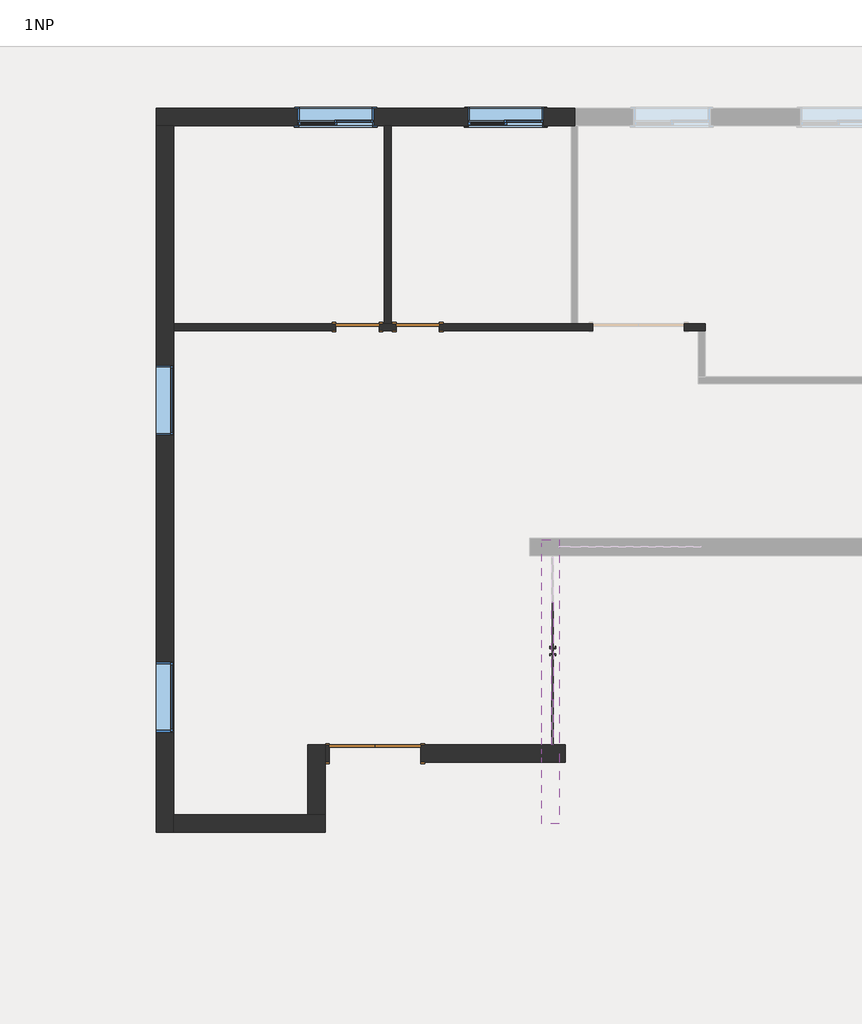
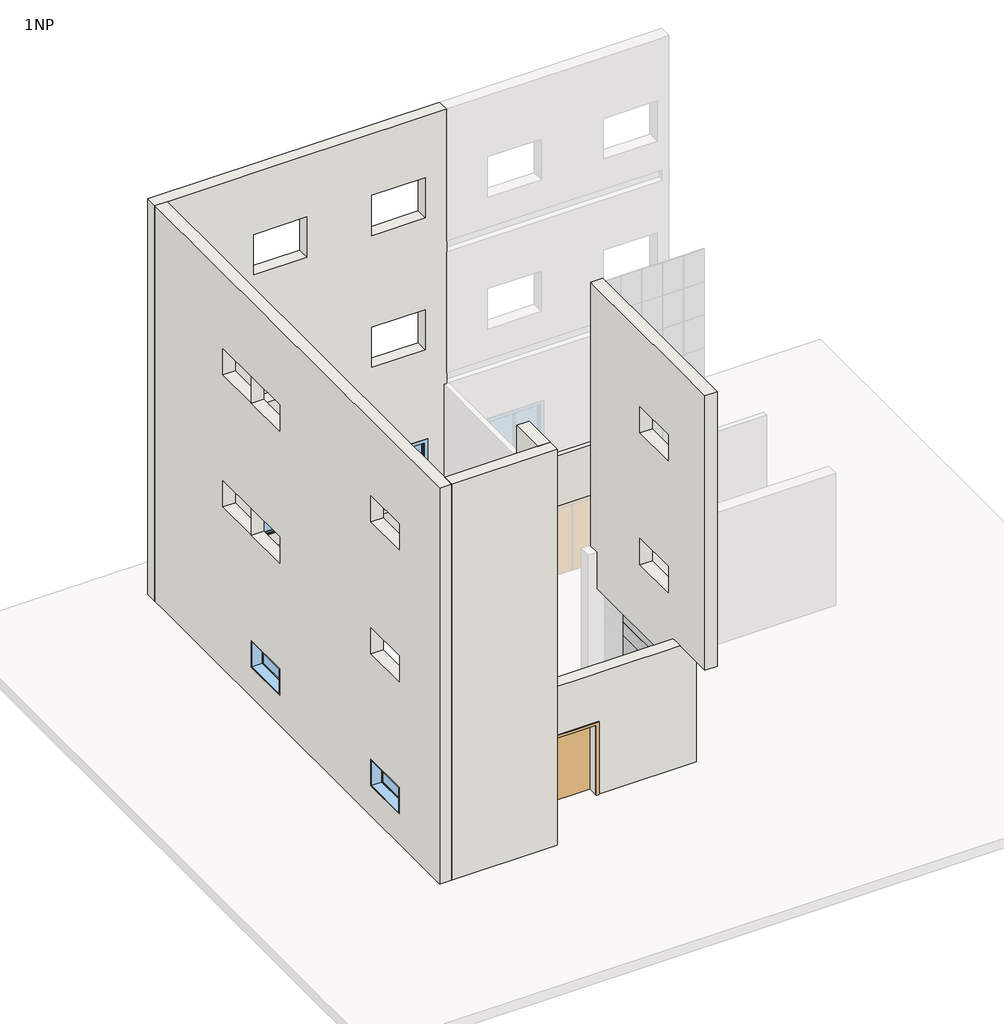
# One storey, part 1 of 2: 8 walls, 6 plates, 4 windows, 3 doors.
"""IFC4 building model written with IfcOpenShell, lengths in millimetres."""

import ifcopenshell
import ifcopenshell.guid

model = None  # the IFC model being written
_history = None  # IfcOwnerHistory: only IFC2X3 demands one
_inside = {}  # id of a spatial element -> (the spatial element, [elements in it])
_under = {}  # id of a project, library or spatial element -> (it, [spatial elements below it])
_declared = {}  # id of a project -> (the project, [libraries it declares])
_typed = {}  # id of a type object -> (the type object, [elements of that type])
_made_of = {}  # id of a material, layer set ... -> (it, [elements and type objects made of it])


def new_model(schema):
    """Start an empty IFC model of exactly this schema.

    Asked for "IFC4X3", IfcOpenShell would pick the latest addendum, in which some entities
    have other attributes; the version numbers below select the first issue.
    IFC2X3 requires an IfcOwnerHistory on every rooted entity: one is made here for all.
    """
    global model, _history
    if schema == "IFC4X3":
        model = ifcopenshell.file(schema_version=(4, 3, 0, 0))
    else:
        model = ifcopenshell.file(schema=schema)
    _inside.clear()
    _under.clear()
    _declared.clear()
    _typed.clear()
    _made_of.clear()
    _history = None
    if model.schema == "IFC2X3":
        org = make("IfcOrganization", Name="unknown")
        user = make(
            "IfcPersonAndOrganization",
            ThePerson=make("IfcPerson", FamilyName="unknown"),
            TheOrganization=org,
        )
        app = make(
            "IfcApplication",
            ApplicationDeveloper=org,
            Version="unknown",
            ApplicationFullName="unknown",
            ApplicationIdentifier="unknown",
        )
        _history = make(
            "IfcOwnerHistory",
            OwningUser=user,
            OwningApplication=app,
            ChangeAction="ADDED",
            CreationDate=0,
        )
    return model


def make(cls, **values):
    """One entity of the class cls with the attributes given. An attribute that is None is left unset."""
    return model.create_entity(
        cls, **{name: value for name, value in values.items() if value is not None}
    )


def rooted(cls, **values):
    """An entity with a GlobalId (a new one), such as an element, a storey or a relation."""
    return make(cls, GlobalId=ifcopenshell.guid.new(), OwnerHistory=_history, **values)


def si_unit(unit_type, name, prefix=None):
    """IfcSIUnit, for example si_unit("LENGTHUNIT", "METRE", prefix="MILLI")."""
    return make("IfcSIUnit", UnitType=unit_type, Prefix=prefix, Name=name)


def assignment(units):
    """IfcUnitAssignment: the units of a project."""
    return None if units is None else make("IfcUnitAssignment", Units=units)


def point(xyz):
    """IfcCartesianPoint."""
    return None if xyz is None else make("IfcCartesianPoint", Coordinates=xyz)


def direction(xyz):
    """IfcDirection."""
    return None if xyz is None else make("IfcDirection", DirectionRatios=xyz)


def frame(location, z_axis=None, x_axis=None):
    """IfcAxis2Placement3D, a coordinate frame: its origin and axes. An axis left out is left unset."""
    return make(
        "IfcAxis2Placement3D",
        Location=point(location),
        Axis=direction(z_axis),
        RefDirection=direction(x_axis),
    )


def origin():
    """The frame at (0, 0, 0) with its axes left unset."""
    return frame((0.0, 0.0, 0.0))


def origin_with_axes():
    """The frame at (0, 0, 0) with the z axis (0, 0, 1) and the x axis (1, 0, 0) written out."""
    return frame((0.0, 0.0, 0.0), z_axis=(0.0, 0.0, 1.0), x_axis=(1.0, 0.0, 0.0))


def place(relative_to, where):
    """IfcLocalPlacement: puts the frame where relative to a parent placement (None: the world)."""
    return make(
        "IfcLocalPlacement", PlacementRelTo=relative_to, RelativePlacement=where
    )


def context(
    kind, dimensions, precision=None, world=None, true_north=None, identifier=None
):
    """IfcGeometricRepresentationContext, for example the 3D "Model" context."""
    return make(
        "IfcGeometricRepresentationContext",
        ContextIdentifier=identifier,
        ContextType=kind,
        CoordinateSpaceDimension=dimensions,
        Precision=precision,
        WorldCoordinateSystem=world,
        TrueNorth=true_north,
    )


def project(units=None, contexts=None):
    """IfcProject with its units and contexts."""
    return rooted(
        "IfcProject",
        Name="project",
        RepresentationContexts=contexts,
        UnitsInContext=assignment(units),
    )


def spatial(cls, under=None, at=None, **own):
    """A site, building, storey or space (cls), placed at a placement, below another one or the project."""
    s = rooted(cls, ObjectPlacement=at, **own)
    if under is not None:
        _under.setdefault(under.id(), (under, []))[1].append(s)
    return s


def polyline(points):
    """IfcPolyline through the points."""
    return make("IfcPolyline", Points=[point(p) for p in points])


def outline(outer, holes=None, kind="AREA"):
    """IfcArbitraryClosedProfileDef: a profile drawn as a closed curve; with holes, ...WithVoids."""
    if holes is None:
        return make("IfcArbitraryClosedProfileDef", ProfileType=kind, OuterCurve=outer)
    return make(
        "IfcArbitraryProfileDefWithVoids",
        ProfileType=kind,
        OuterCurve=outer,
        InnerCurves=holes,
    )


def extrude(swept, where, along, depth):
    """IfcExtrudedAreaSolid: the profile swept, set in the frame where, extruded along a direction by depth."""
    return make(
        "IfcExtrudedAreaSolid",
        SweptArea=swept,
        Position=where,
        ExtrudedDirection=direction(along),
        Depth=depth,
    )


def faces_of(points, faces, orient=None, outer=None):
    """IfcFace entities. A face is a list of loops; a loop is a list of indices into points, from 0.

    orient and outer hold one flag for each loop. By default every Orientation is true, the
    first loop of a face is its IfcFaceOuterBound and the others are IfcFaceBound.
    """
    made = []
    for i, loops in enumerate(faces):
        bounds = []
        for j, loop in enumerate(loops):
            is_outer = j == 0 if outer is None else outer[i][j]
            bounds.append(
                make(
                    "IfcFaceOuterBound" if is_outer else "IfcFaceBound",
                    Bound=make("IfcPolyLoop", Polygon=[points[k] for k in loop]),
                    Orientation=True if orient is None else orient[i][j],
                )
            )
        made.append(make("IfcFace", Bounds=bounds))
    return made


def faceted_brep(points, faces, orient=None, outer=None, voids=None):
    """IfcFacetedBrep: a solid bounded by flat faces; with voids (closed shells), ...WithVoids."""
    shared = [point(p) for p in points]
    hull = make("IfcClosedShell", CfsFaces=faces_of(shared, faces, orient, outer))
    if voids is None:
        return make("IfcFacetedBrep", Outer=hull)
    return make(
        "IfcFacetedBrepWithVoids",
        Outer=hull,
        Voids=[
            make(cls, CfsFaces=faces_of(shared, fs, o, b)) for cls, fs, o, b in voids
        ],
    )


def shape(context_of_items, identifier, shape_type, items):
    """IfcShapeRepresentation: the items that make up one representation, for example the "Body"."""
    return make(
        "IfcShapeRepresentation",
        ContextOfItems=context_of_items,
        RepresentationIdentifier=identifier,
        RepresentationType=shape_type,
        Items=items,
    )


def source(mapping_origin, context_of_items, identifier, shape_type, items):
    """IfcRepresentationMap: a shape defined once, which mapped items show again and again."""
    return make(
        "IfcRepresentationMap",
        MappingOrigin=mapping_origin,
        MappedRepresentation=shape(context_of_items, identifier, shape_type, items),
    )


def transform(
    local_origin,
    x_axis=None,
    y_axis=None,
    z_axis=None,
    scale=None,
    scale2=None,
    scale3=None,
    uniform=True,
):
    """IfcCartesianTransformationOperator3D, or its non-uniform kind. x_axis, y_axis, z_axis: its Axis1, 2, 3."""
    if uniform:
        return make(
            "IfcCartesianTransformationOperator3D",
            Axis1=direction(x_axis),
            Axis2=direction(y_axis),
            LocalOrigin=point(local_origin),
            Scale=scale,
            Axis3=direction(z_axis),
        )
    return make(
        "IfcCartesianTransformationOperator3DnonUniform",
        Axis1=direction(x_axis),
        Axis2=direction(y_axis),
        LocalOrigin=point(local_origin),
        Scale=scale,
        Axis3=direction(z_axis),
        Scale2=scale2,
        Scale3=scale3,
    )


def mapped(mapping_source, mapping_target):
    """IfcMappedItem: shows the shape of a source again, moved by a transform."""
    return make(
        "IfcMappedItem", MappingSource=mapping_source, MappingTarget=mapping_target
    )


def made_of(thing, what):
    """Note that an element or type object is made of a material, layer set ...; save() writes the relation."""
    if what is not None:
        _made_of.setdefault(what.id(), (what, []))[1].append(thing)
    return thing


def element(
    cls,
    number,
    at=None,
    inside=None,
    cuts=None,
    type_object=None,
    material=None,
    context=None,
    identifier="Body",
    shape_type=None,
    held_by="IfcProductDefinitionShape",
    body=None,
    shapes=None,
    **own,
):
    """One element of the class cls, such as IfcWall. Its Tag is "e" and its number.

    at: its placement. inside: the storey or other place that contains it. cuts: it is an
    opening in that element (IfcRelVoidsElement). A single representation is given by context,
    identifier, shape_type and body (its items); several are given by shapes. held_by: the class
    of the entity that holds the representations. save() writes the other relations.
    """
    e = rooted(cls, Tag="e%d" % number, ObjectPlacement=at, **own)
    if body is not None:
        shapes = [shape(context, identifier, shape_type, body)]
    if shapes is not None:
        e.Representation = make(held_by, Representations=shapes)
    if inside is not None:
        _inside.setdefault(inside.id(), (inside, []))[1].append(e)
    if cuts is not None:
        rooted(
            "IfcRelVoidsElement", RelatingBuildingElement=cuts, RelatedOpeningElement=e
        )
    if type_object is not None:
        _typed.setdefault(type_object.id(), (type_object, []))[1].append(e)
    return made_of(e, material)


def aggregate(whole, parts):
    """IfcRelAggregates: a whole, such as a stair, and the parts it consists of."""
    return rooted("IfcRelAggregates", RelatingObject=whole, RelatedObjects=parts)


def save(model, path):
    """Write the relations noted so far, then the file.

    IfcRelAggregates (storeys below a building ...), IfcRelContainedInSpatialStructure (elements
    in a storey), IfcRelDefinesByType, IfcRelAssociatesMaterial and IfcRelDeclares: one each for
    every whole, place, type object, material and project.
    """
    for whole, parts in _under.values():
        aggregate(whole, parts)
    for where, things in _inside.values():
        rooted(
            "IfcRelContainedInSpatialStructure",
            RelatedElements=things,
            RelatingStructure=where,
        )
    for kind, things in _typed.values():
        rooted("IfcRelDefinesByType", RelatedObjects=things, RelatingType=kind)
    for what, things in _made_of.values():
        rooted("IfcRelAssociatesMaterial", RelatedObjects=things, RelatingMaterial=what)
    for by, libraries in _declared.values():
        rooted("IfcRelDeclares", RelatingContext=by, RelatedDefinitions=libraries)
    model.write(path)


def m_double_flush_1830_x_2134mm_224c2c1d(model_context):
    return source(origin(), model_context, "Body", "SweptSolid", [
        extrude(outline(polyline([(0.0, 175.0), (915.0, 175.0), (915.0, 124.0), (0.0, 124.0), (0.0, 175.0)])), origin_with_axes(), (0.0, 0.0, 1.0), 2134.0),
        extrude(outline(polyline([(-915.0, 175.0), (0.0, 175.0), (0.0, 124.0), (-915.0, 124.0), (-915.0, 175.0)])), origin_with_axes(), (0.0, 0.0, 1.0), 2134.0),
        extrude(outline(polyline([(2134.0, -915.0), (2134.0, 915.0), (0.0, 915.0), (0.0, 991.0), (2210.0, 991.0), (2210.0, -991.0), (0.0, -991.0), (0.0, -915.0), (2134.0, -915.0)])), frame((0.0, -200.0, 0.0), z_axis=(0.0, 1.0, 0.0), x_axis=(0.0, 0.0, 1.0)), (0.0, 0.0, 1.0), 25.0),
        extrude(outline(polyline([(2134.0, -915.0), (2134.0, 915.0), (0.0, 915.0), (0.0, 991.0), (2210.0, 991.0), (2210.0, -991.0), (0.0, -991.0), (0.0, -915.0), (2134.0, -915.0)])), frame((0.0, 175.0, 0.0), z_axis=(0.0, 1.0, 0.0), x_axis=(0.0, 0.0, 1.0)), (0.0, 0.0, 1.0), 25.0),
    ])


def m_single_flush_0864_x_2134mm_5a8c3ac0(model_context):
    return source(origin(), model_context, "Body", "SweptSolid", [
        extrude(outline(polyline([(2210.0, -508.0), (0.0, -508.0), (0.0, -432.0), (2134.0, -432.0), (2134.0, 432.0), (0.0, 432.0), (0.0, 508.0), (2210.0, 508.0), (2210.0, -508.0)])), frame((0.0, 69.25, 0.0), z_axis=(0.0, 1.0, 0.0), x_axis=(0.0, 0.0, 1.0)), (0.0, 0.0, 1.0), 25.0),
        extrude(outline(polyline([(2210.0, 508.0), (2210.0, -508.0), (0.0, -508.0), (0.0, -432.0), (2134.0, -432.0), (2134.0, 432.0), (0.0, 432.0), (0.0, 508.0), (2210.0, 508.0)])), frame((0.0, -94.25, 0.0), z_axis=(0.0, 1.0, 0.0), x_axis=(0.0, 0.0, 1.0)), (0.0, 0.0, 1.0), 25.0),
        extrude(outline(polyline([(432.0, 18.25), (-432.0, 18.25), (-432.0, 69.25), (432.0, 69.25), (432.0, 18.25)])), origin_with_axes(), (0.0, 0.0, 1.0), 2134.0),
    ])


def m_single_flush_0864_x_2134mm_a6052287(model_context):
    return source(origin(), model_context, "Body", "SweptSolid", [
        extrude(outline(polyline([(2210.0, -508.0), (0.0, -508.0), (0.0, -432.0), (2134.0, -432.0), (2134.0, 432.0), (0.0, 432.0), (0.0, 508.0), (2210.0, 508.0), (2210.0, -508.0)])), frame((0.0, -94.25, 0.0), z_axis=(0.0, 1.0, 0.0), x_axis=(0.0, 0.0, 1.0)), (0.0, 0.0, 1.0), 25.0),
        extrude(outline(polyline([(2210.0, 508.0), (2210.0, -508.0), (0.0, -508.0), (0.0, -432.0), (2134.0, -432.0), (2134.0, 432.0), (0.0, 432.0), (0.0, 508.0), (2210.0, 508.0)])), frame((0.0, 69.25, 0.0), z_axis=(0.0, 1.0, 0.0), x_axis=(0.0, 0.0, 1.0)), (0.0, 0.0, 1.0), 25.0),
        extrude(outline(polyline([(432.0, -18.25), (432.0, -69.25), (-432.0, -69.25), (-432.0, -18.25), (432.0, -18.25)])), origin_with_axes(), (0.0, 0.0, 1.0), 2134.0),
    ])


def m_curtain_wall_dbl_glass_m_curtain_wall_dbl_glass_b983a01c(model_context):
    return source(origin(), model_context, "Body", "SweptSolid", [
        extrude(outline(polyline([(-1.5875, -30.95), (-1.5875, -50.0), (-975.0, -50.0), (-975.0, -30.95), (-1.5875, -30.95)])), origin_with_axes(), (0.0, 0.0, 1.0), 2000.0),
        extrude(outline(polyline([(975.0, -30.95), (975.0, -50.0), (1.5875, -50.0), (1.5875, -30.95), (975.0, -30.95)])), origin_with_axes(), (0.0, 0.0, 1.0), 2000.0),
        extrude(outline(polyline([(-50.8, -100.8), (-95.25, -100.8), (-95.25, -94.45), (-57.15, -94.45), (-57.15, -50.0), (-50.8, -50.0), (-50.8, -100.8)])), frame((0.0, 0.0, 863.6), z_axis=(0.0, 0.0, 1.0), x_axis=(1.0, 0.0, 0.0)), (0.0, 0.0, 1.0), 203.2),
        extrude(outline(polyline([(50.8, -100.8), (50.8, -50.0), (57.15, -50.0), (57.15, -94.45), (95.25, -94.45), (95.25, -100.8), (50.8, -100.8)])), frame((0.0, 0.0, 863.6), z_axis=(0.0, 0.0, 1.0), x_axis=(1.0, 0.0, 0.0)), (0.0, 0.0, 1.0), 203.2),
        extrude(outline(polyline([(-50.8, 19.85), (-50.8, -30.95), (-57.15, -30.95), (-57.15, 13.5), (-95.25, 13.5), (-95.25, 19.85), (-50.8, 19.85)])), frame((0.0, 0.0, 863.6), z_axis=(0.0, 0.0, 1.0), x_axis=(1.0, 0.0, 0.0)), (0.0, 0.0, 1.0), 203.2),
        extrude(outline(polyline([(50.8, 19.85), (95.25, 19.85), (95.25, 13.5), (57.15, 13.5), (57.15, -30.95), (50.8, -30.95), (50.8, 19.85)])), frame((0.0, 0.0, 863.6), z_axis=(0.0, 0.0, 1.0), x_axis=(1.0, 0.0, 0.0)), (0.0, 0.0, 1.0), 203.2),
    ])


def system_panel_glazed_d6775a2a(model_context):
    return source(origin(), model_context, "Body", "SweptSolid", [
        extrude(outline(polyline([(450.0, -49.5), (-450.0, -49.5), (-450.0, -24.5), (450.0, -24.5), (450.0, -49.5)])), origin_with_axes(), (0.0, 0.0, 1.0), 2000.0),
    ])


def system_panel_glazed_e6f66e58(model_context):
    return source(origin(), model_context, "Body", "SweptSolid", [
        extrude(outline(polyline([(450.0, -49.5), (-450.0, -49.5), (-450.0, -24.5), (450.0, -24.5), (450.0, -49.5)])), origin_with_axes(), (0.0, 0.0, 1.0), 400.0),
    ])


def system_panel_glazed_1b13e7de(model_context):
    return source(origin(), model_context, "Body", "SweptSolid", [
        extrude(outline(polyline([(975.0, -49.5), (-975.0, -49.5), (-975.0, -24.5), (975.0, -24.5), (975.0, -49.5)])), origin_with_axes(), (0.0, 0.0, 1.0), 400.0),
    ])


def system_panel_glazed_1cea1c28(model_context):
    return source(origin(), model_context, "Body", "SweptSolid", [
        extrude(outline(polyline([(450.0, -49.5), (-450.0, -49.5), (-450.0, -24.5), (450.0, -24.5), (450.0, -49.5)])), origin_with_axes(), (0.0, 0.0, 1.0), 500.0),
    ])


def system_panel_glazed_d60ff87d(model_context):
    return source(origin(), model_context, "Body", "SweptSolid", [
        extrude(outline(polyline([(975.0, -49.5), (-975.0, -49.5), (-975.0, -24.5), (975.0, -24.5), (975.0, -49.5)])), origin_with_axes(), (0.0, 0.0, 1.0), 500.0),
    ])


def m_fixed_1400_x_0800mm_a23a53e8(model_context):
    return source(origin(), model_context, "Body", "SweptSolid", [
        extrude(outline(polyline([(-637.0, 153.0), (637.0, 153.0), (637.0, 141.0), (-637.0, 141.0), (-637.0, 153.0)])), frame((0.0, 0.0, 978.0), z_axis=(0.0, 0.0, 1.0), x_axis=(1.0, 0.0, 0.0)), (0.0, 0.0, 1.0), 674.0),
        extrude(outline(polyline([(1696.0, -681.0), (934.0, -681.0), (934.0, 681.0), (1696.0, 681.0), (1696.0, -681.0)]), holes=[polyline([(1652.0, -637.0), (1652.0, 637.0), (978.0, 637.0), (978.0, -637.0), (1652.0, -637.0)])]), frame((0.0, 125.0, 0.0), z_axis=(0.0, 1.0, 0.0), x_axis=(0.0, 0.0, 1.0)), (0.0, 0.0, 1.0), 44.0),
        extrude(outline(polyline([(1715.0, -700.0), (915.0, -700.0), (915.0, 700.0), (1715.0, 700.0), (1715.0, -700.0)]), holes=[polyline([(1696.0, -681.0), (1696.0, 681.0), (934.0, 681.0), (934.0, -681.0), (1696.0, -681.0)])]), frame((0.0, 125.0, 0.0), z_axis=(0.0, 1.0, 0.0), x_axis=(0.0, 0.0, 1.0)), (0.0, 0.0, 1.0), 63.0),
        extrude(outline(polyline([(1715.0, -700.0), (915.0, -700.0), (915.0, 700.0), (1715.0, 700.0), (1715.0, -700.0)]), holes=[polyline([(1683.0, -668.0), (1683.0, 668.0), (947.0, 668.0), (947.0, -668.0), (1683.0, -668.0)])]), frame((0.0, -162.0, 0.0), z_axis=(0.0, 1.0, 0.0), x_axis=(0.0, 0.0, 1.0)), (0.0, 0.0, 1.0), 287.0),
    ])


def m_sliding_with_trim_1830_x_1220mm_f8e2f31e(model_context):
    return source(origin(), model_context, "Body", "SweptSolid", [
        extrude(outline(polyline([(-698.5, 95.625), (-22.225, 95.625), (-22.225, 82.925), (-698.5, 82.925), (-698.5, 95.625)])), frame((0.0, 0.0, 977.9), z_axis=(0.0, 0.0, 1.0), x_axis=(1.0, 0.0, 0.0)), (0.0, 0.0, 1.0), 1092.2),
        extrude(outline(polyline([(2114.55, -742.95), (933.45, -742.95), (933.45, 22.225), (2114.55, 22.225), (2114.55, -742.95)]), holes=[polyline([(2070.1, -698.5), (2070.1, -22.225), (977.9, -22.225), (977.9, -698.5), (2070.1, -698.5)])]), frame((0.0, 67.05, 0.0), z_axis=(0.0, 1.0, 0.0), x_axis=(0.0, 0.0, 1.0)), (0.0, 0.0, 1.0), 44.45),
        extrude(outline(polyline([(-831.85, 206.75), (831.85, 206.75), (831.85, 175.0), (-831.85, 175.0), (-831.85, 206.75)])), frame((0.0, 0.0, 914.4), z_axis=(0.0, 0.0, 1.0), x_axis=(1.0, 0.0, 0.0)), (0.0, 0.0, 1.0), 19.05),
        extrude(outline(polyline([(2114.55, -742.95), (2114.55, 742.95), (933.45, 742.95), (933.45, 831.85), (2203.45, 831.85), (2203.45, -831.85), (933.45, -831.85), (933.45, -742.95), (2114.55, -742.95)])), frame((0.0, 175.0, 0.0), z_axis=(0.0, 1.0, 0.0), x_axis=(0.0, 0.0, 1.0)), (0.0, 0.0, 1.0), 19.05),
        extrude(outline(polyline([(2190.75, 819.15), (2190.75, -819.15), (857.25, -819.15), (857.25, 819.15), (2190.75, 819.15)]), holes=[polyline([(2101.85, 730.25), (946.15, 730.25), (946.15, -730.25), (2101.85, -730.25), (2101.85, 730.25)])]), frame((0.0, -194.05, 0.0), z_axis=(0.0, 1.0, 0.0), x_axis=(0.0, 0.0, 1.0)), (0.0, 0.0, 1.0), 19.05),
        extrude(outline(polyline([(698.5, 127.375), (22.225, 127.375), (22.225, 140.075), (698.5, 140.075), (698.5, 127.375)])), frame((0.0, 0.0, 977.9), z_axis=(0.0, 0.0, 1.0), x_axis=(1.0, 0.0, 0.0)), (0.0, 0.0, 1.0), 1092.2),
        extrude(outline(polyline([(2114.55, -22.225), (933.45, -22.225), (933.45, 742.95), (2114.55, 742.95), (2114.55, -22.225)]), holes=[polyline([(2070.1, 22.225), (2070.1, 698.5), (977.9, 698.5), (977.9, 22.225), (2070.1, 22.225)])]), frame((0.0, 111.5, 0.0), z_axis=(0.0, 1.0, 0.0), x_axis=(0.0, 0.0, 1.0)), (0.0, 0.0, 1.0), 44.45),
        extrude(outline(polyline([(2133.6, -762.0), (914.4, -762.0), (914.4, 762.0), (2133.6, 762.0), (2133.6, -762.0)]), holes=[polyline([(2101.85, -730.25), (2101.85, 730.25), (946.15, 730.25), (946.15, -730.25), (2101.85, -730.25)])]), frame((0.0, -175.0, 0.0), z_axis=(0.0, 1.0, 0.0), x_axis=(0.0, 0.0, 1.0)), (0.0, 0.0, 1.0), 242.05),
        extrude(outline(polyline([(2133.6, 762.0), (2133.6, -762.0), (914.4, -762.0), (914.4, 762.0), (2133.6, 762.0)]), holes=[polyline([(2114.55, 742.95), (933.45, 742.95), (933.45, -742.95), (2114.55, -742.95), (2114.55, 742.95)])]), frame((0.0, 67.05, 0.0), z_axis=(0.0, 1.0, 0.0), x_axis=(0.0, 0.0, 1.0)), (0.0, 0.0, 1.0), 107.95),
    ])


model = new_model("IFC4")

# Units and contexts
model_context = context("Model", 3, world=origin())
ifc_project = project(units=[si_unit("LENGTHUNIT", "METRE", prefix="MILLI")], contexts=[model_context])

# Site, building, storey
site = spatial("IfcSite", under=ifc_project)
building = spatial("IfcBuilding", under=site)
storey = spatial("IfcBuildingStorey", under=building, Name="1NP", Elevation=0.0)

# Doors
placement = place(None, origin())
m_double_flush_1830_x_2134mm_shape = m_double_flush_1830_x_2134mm_224c2c1d(model_context)
element("IfcDoor", 1, ObjectType="M_Double-Flush : 1830 x 2134mm", at=placement, inside=storey, context=model_context, shape_type="MappedRepresentation", body=[
    mapped(m_double_flush_1830_x_2134mm_shape, transform((-3151.8077176, -2850.1973194, 0.0), x_axis=(0.9999999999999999, 0.0, 0.0), y_axis=(0.0, 0.9999999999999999, 0.0), z_axis=(0.0, 0.0, 1.0))),
])
m_single_flush_0864_x_2134mm_shape = m_single_flush_0864_x_2134mm_5a8c3ac0(model_context)
element("IfcDoor", 2, ObjectType="M_Single-Flush : 0864 x 2134mm", at=placement, inside=storey, context=model_context, shape_type="MappedRepresentation", body=[
    mapped(m_single_flush_0864_x_2134mm_shape, transform((-3505.756955, 5680.8503657, 0.0), x_axis=(0.9999999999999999, 0.0, 0.0), y_axis=(0.0, 0.9999999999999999, 0.0), z_axis=(0.0, 0.0, 1.0))),
])
m_single_flush_0864_x_2134mm_2_shape = m_single_flush_0864_x_2134mm_a6052287(model_context)
element("IfcDoor", 3, ObjectType="M_Single-Flush : 0864 x 2134mm", at=placement, inside=storey, context=model_context, shape_type="MappedRepresentation", body=[
    mapped(m_single_flush_0864_x_2134mm_2_shape, transform((-2303.256955, 5680.8503657, 0.0), x_axis=(-0.9999999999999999, 0.0, 0.0), y_axis=(0.0, -0.9999999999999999, 0.0), z_axis=(0.0, 0.0, 1.0))),
])

# Plates
m_curtain_wall_dbl_glass_m_curtain_wall_dbl_glass_shape = m_curtain_wall_dbl_glass_m_curtain_wall_dbl_glass_b983a01c(model_context)
element("IfcPlate", 4, ObjectType="M_Curtain Wall Dbl Glass : M_Curtain Wall Dbl Glass", at=placement, inside=storey, context=model_context, shape_type="MappedRepresentation", body=[
    mapped(m_curtain_wall_dbl_glass_m_curtain_wall_dbl_glass_shape, transform((357.3775179, -800.1973194, 0.0), x_axis=(0.0, 1.0, 0.0), y_axis=(-1.0, 0.0, 0.0), z_axis=(0.0, 0.0, 1.0))),
])
system_panel_glazed_shape = system_panel_glazed_d6775a2a(model_context)
element("IfcPlate", 5, ObjectType="System Panel : Glazed", at=placement, inside=storey, context=model_context, shape_type="MappedRepresentation", body=[
    mapped(system_panel_glazed_shape, transform((357.3775179, -2225.1973194, 0.0), x_axis=(0.0, 1.0, 0.0), y_axis=(-1.0, 0.0, 0.0), z_axis=(0.0, 0.0, 1.0))),
])
system_panel_glazed_2_shape = system_panel_glazed_e6f66e58(model_context)
element("IfcPlate", 6, ObjectType="System Panel : Glazed", at=placement, inside=storey, context=model_context, shape_type="MappedRepresentation", body=[
    mapped(system_panel_glazed_2_shape, transform((357.3775179, -2225.1973194, 2000.0), x_axis=(0.0, 1.0, 0.0), y_axis=(-1.0, 0.0, 0.0), z_axis=(0.0, 0.0, 1.0))),
])
system_panel_glazed_3_shape = system_panel_glazed_1b13e7de(model_context)
element("IfcPlate", 7, ObjectType="System Panel : Glazed", at=placement, inside=storey, context=model_context, shape_type="MappedRepresentation", body=[
    mapped(system_panel_glazed_3_shape, transform((357.3775179, -800.1973194, 2000.0), x_axis=(0.0, 1.0, 0.0), y_axis=(-1.0, 0.0, 0.0), z_axis=(0.0, 0.0, 1.0))),
])
system_panel_glazed_4_shape = system_panel_glazed_1cea1c28(model_context)
element("IfcPlate", 8, ObjectType="System Panel : Glazed", at=placement, inside=storey, context=model_context, shape_type="MappedRepresentation", body=[
    mapped(system_panel_glazed_4_shape, transform((357.3775179, -2225.1973194, 2400.0), x_axis=(0.0, 1.0, 0.0), y_axis=(-1.0, 0.0, 0.0), z_axis=(0.0, 0.0, 1.0))),
])
system_panel_glazed_5_shape = system_panel_glazed_d60ff87d(model_context)
element("IfcPlate", 9, ObjectType="System Panel : Glazed", at=placement, inside=storey, context=model_context, shape_type="MappedRepresentation", body=[
    mapped(system_panel_glazed_5_shape, transform((357.3775179, -800.1973194, 2400.0), x_axis=(0.0, 1.0, 0.0), y_axis=(-1.0, 0.0, 0.0), z_axis=(0.0, 0.0, 1.0))),
])

# Walls
element("IfcWall", 10, ObjectType="Exterior - Brick on Mtl. Stud", at=placement, inside=storey, context=model_context, shape_type="Brep", body=[
    faceted_brep([(-7530.3077176, 9711.6003657, 0.0), (-7530.3077176, -4425.1973194, 0.0), (-7530.3077176, -4425.1973194, 12000.0), (-7530.3077176, 9711.6003657, 12000.0), (-7530.3077176, -1017.6973194, 4915.0), (-7530.3077176, -1017.6973194, 5715.0), (-7530.3077176, -2417.6973194, 5715.0), (-7530.3077176, -2417.6973194, 4915.0), (-7530.3077176, 4917.3026806, 4915.0), (-7530.3077176, 4917.3026806, 5715.0), (-7530.3077176, 3517.3026806, 5715.0), (-7530.3077176, 3517.3026806, 4915.0), (-7530.3077176, 6332.3026806, 4915.0), (-7530.3077176, 6332.3026806, 5715.0), (-7530.3077176, 4932.3026806, 5715.0), (-7530.3077176, 4932.3026806, 4915.0), (-7530.3077176, -1017.6973194, 8915.0), (-7530.3077176, -1017.6973194, 9715.0), (-7530.3077176, -2417.6973194, 9715.0), (-7530.3077176, -2417.6973194, 8915.0), (-7530.3077176, 4917.3026806, 8915.0), (-7530.3077176, 4917.3026806, 9715.0), (-7530.3077176, 3517.3026806, 9715.0), (-7530.3077176, 3517.3026806, 8915.0), (-7530.3077176, 6332.3026806, 8915.0), (-7530.3077176, 6332.3026806, 9715.0), (-7530.3077176, 4932.3026806, 9715.0), (-7530.3077176, 4932.3026806, 8915.0), (-7530.3077176, -1017.6973194, 915.0), (-7530.3077176, -1017.6973194, 1715.0), (-7530.3077176, -2417.6973194, 1715.0), (-7530.3077176, -2417.6973194, 915.0), (-7530.3077176, 4917.3026806, 915.0), (-7530.3077176, 4917.3026806, 1715.0), (-7530.3077176, 3517.3026806, 1715.0), (-7530.3077176, 3517.3026806, 915.0), (-7180.3077176, -4425.1973194, 0.0), (-7180.3077176, -4075.1973194, 0.0), (-7180.3077176, 5611.6003657, 0.0), (-7180.3077176, 5750.1003657, 0.0), (-7180.3077176, 9711.6003657, 0.0), (-7180.3077176, 9711.6003657, 3680.0), (-7180.3077176, 5750.1003657, 3680.0), (-7180.3077176, 5611.6003657, 3680.0), (-7180.3077176, -4075.1973194, 3680.0), (-7180.3077176, -4240.1973194, 3680.0), (-7180.3077176, -4240.1973194, 4000.0), (-7180.3077176, -4075.1973194, 4000.0), (-7180.3077176, -652.1973194, 4000.0), (-7180.3077176, -513.6973194, 4000.0), (-7180.3077176, 1286.3026806, 4000.0), (-7180.3077176, 1424.8026806, 4000.0), (-7180.3077176, 9711.6003657, 4000.0), (-7180.3077176, 9711.6003657, 7680.0), (-7180.3077176, 1424.8026806, 7680.0), (-7180.3077176, 1286.3026806, 7680.0), (-7180.3077176, -513.6973194, 7680.0), (-7180.3077176, -652.1973194, 7680.0), (-7180.3077176, -4075.1973194, 7680.0), (-7180.3077176, -4240.1973194, 7680.0), (-7180.3077176, -4240.1973194, 8000.0), (-7180.3077176, -4075.1973194, 8000.0), (-7180.3077176, 1286.3026806, 8000.0), (-7180.3077176, 1424.8026806, 8000.0), (-7180.3077176, 6630.0261065, 8000.0), (-7180.3077176, 6768.5261065, 8000.0), (-7180.3077176, 9711.6003657, 8000.0), (-7180.3077176, 9711.6003657, 12000.0), (-7180.3077176, 6768.5261065, 12000.0), (-7180.3077176, 6630.0261065, 12000.0), (-7180.3077176, 1424.8026806, 12000.0), (-7180.3077176, 1286.3026806, 12000.0), (-7180.3077176, -4075.1973194, 12000.0), (-7180.3077176, -4425.1973194, 12000.0), (-7180.3077176, -1017.6973194, 5715.0), (-7180.3077176, -1017.6973194, 4915.0), (-7180.3077176, -2417.6973194, 4915.0), (-7180.3077176, -2417.6973194, 5715.0), (-7180.3077176, 4917.3026806, 5715.0), (-7180.3077176, 4917.3026806, 4915.0), (-7180.3077176, 3517.3026806, 4915.0), (-7180.3077176, 3517.3026806, 5715.0), (-7180.3077176, 6332.3026806, 5715.0), (-7180.3077176, 6332.3026806, 4915.0), (-7180.3077176, 4932.3026806, 4915.0), (-7180.3077176, 4932.3026806, 5715.0), (-7180.3077176, -1017.6973194, 9715.0), (-7180.3077176, -1017.6973194, 8915.0), (-7180.3077176, -2417.6973194, 8915.0), (-7180.3077176, -2417.6973194, 9715.0), (-7180.3077176, 4917.3026806, 9715.0), (-7180.3077176, 4917.3026806, 8915.0), (-7180.3077176, 3517.3026806, 8915.0), (-7180.3077176, 3517.3026806, 9715.0), (-7180.3077176, 6332.3026806, 9715.0), (-7180.3077176, 6332.3026806, 8915.0), (-7180.3077176, 4932.3026806, 8915.0), (-7180.3077176, 4932.3026806, 9715.0), (-7180.3077176, -1017.6973194, 1715.0), (-7180.3077176, -1017.6973194, 915.0), (-7180.3077176, -2417.6973194, 915.0), (-7180.3077176, -2417.6973194, 1715.0), (-7180.3077176, 4917.3026806, 1715.0), (-7180.3077176, 4917.3026806, 915.0), (-7180.3077176, 3517.3026806, 915.0), (-7180.3077176, 3517.3026806, 1715.0), (-7345.3077176, 9711.6003657, 8000.0), (-7345.3077176, 9711.6003657, 7680.0), (-7345.3077176, 9711.6003657, 4000.0), (-7345.3077176, 9711.6003657, 3680.0), (-7345.3077176, -4240.1973194, 3680.0), (-7345.3077176, -4240.1973194, 4000.0), (-7345.3077176, -4240.1973194, 7680.0), (-7345.3077176, -4240.1973194, 8000.0)], [[[0, 1, 2, 3], [4, 5, 6, 7], [8, 9, 10, 11], [12, 13, 14, 15], [16, 17, 18, 19], [20, 21, 22, 23], [24, 25, 26, 27], [28, 29, 30, 31], [32, 33, 34, 35]], [[36, 37, 38, 39, 40, 41, 42, 43, 44, 45, 46, 47, 48, 49, 50, 51, 52, 53, 54, 55, 56, 57, 58, 59, 60, 61, 62, 63, 64, 65, 66, 67, 68, 69, 70, 71, 72, 73], [74, 75, 76, 77], [78, 79, 80, 81], [82, 83, 84, 85], [86, 87, 88, 89], [90, 91, 92, 93], [94, 95, 96, 97], [98, 99, 100, 101], [102, 103, 104, 105]], [[1, 0, 40, 39, 38, 37, 36]], [[3, 2, 73, 72, 71, 70, 69, 68, 67]], [[2, 1, 36, 73]], [[0, 3, 67, 66, 106, 107, 53, 52, 108, 109, 41, 40]], [[5, 4, 75, 74]], [[6, 5, 74, 77]], [[7, 6, 77, 76]], [[4, 7, 76, 75]], [[9, 8, 79, 78]], [[10, 9, 78, 81]], [[11, 10, 81, 80]], [[8, 11, 80, 79]], [[13, 12, 83, 82]], [[14, 13, 82, 85]], [[15, 14, 85, 84]], [[12, 15, 84, 83]], [[17, 16, 87, 86]], [[18, 17, 86, 89]], [[19, 18, 89, 88]], [[16, 19, 88, 87]], [[21, 20, 91, 90]], [[22, 21, 90, 93]], [[23, 22, 93, 92]], [[20, 23, 92, 91]], [[25, 24, 95, 94]], [[26, 25, 94, 97]], [[27, 26, 97, 96]], [[24, 27, 96, 95]], [[29, 28, 99, 98]], [[30, 29, 98, 101]], [[31, 30, 101, 100]], [[28, 31, 100, 99]], [[33, 32, 103, 102]], [[34, 33, 102, 105]], [[35, 34, 105, 104]], [[32, 35, 104, 103]], [[110, 45, 44, 43, 42, 41, 109]], [[111, 108, 52, 51, 50, 49, 48, 47, 46]], [[111, 110, 109, 108]], [[110, 111, 46, 45]], [[107, 112, 59, 58, 57, 56, 55, 54, 53]], [[60, 113, 106, 66, 65, 64, 63, 62, 61]], [[112, 113, 60, 59]], [[113, 112, 107, 106]]]),
])
element("IfcWall", 11, ObjectType="Exterior - Brick on Mtl. Stud", at=placement, inside=storey, context=model_context, shape_type="Brep", body=[
    faceted_brep([(-7180.3077176, -4425.1973194, 0.0), (-4155.3077176, -4425.1973194, 0.0), (-4155.3077176, -4425.1973194, 12000.0), (-7180.3077176, -4425.1973194, 12000.0), (-4155.3077176, -4075.1973194, 0.0), (-4505.3077176, -4075.1973194, 0.0), (-7180.3077176, -4075.1973194, 0.0), (-7180.3077176, -4075.1973194, 3680.0), (-4155.3077176, -4075.1973194, 3680.0), (-7180.3077176, -4075.1973194, 12000.0), (-4505.3077176, -4075.1973194, 12000.0), (-4155.3077176, -4075.1973194, 12000.0), (-4155.3077176, -4075.1973194, 8000.0), (-7180.3077176, -4075.1973194, 8000.0), (-4155.3077176, -4075.1973194, 4000.0), (-7180.3077176, -4075.1973194, 4000.0), (-7180.3077176, -4075.1973194, 7680.0), (-4155.3077176, -4075.1973194, 7680.0), (-4155.3077176, -4240.1973194, 3680.0), (-4155.3077176, -4240.1973194, 4000.0), (-4155.3077176, -4240.1973194, 7680.0), (-4155.3077176, -4240.1973194, 8000.0), (-7180.3077176, -4240.1973194, 8000.0), (-7180.3077176, -4240.1973194, 7680.0), (-7180.3077176, -4240.1973194, 4000.0), (-7180.3077176, -4240.1973194, 3680.0)], [[[0, 1, 2, 3]], [[4, 5, 6, 7, 8]], [[9, 10, 11, 12, 13]], [[14, 15, 16, 17]], [[1, 0, 6, 5, 4]], [[3, 2, 11, 10, 9]], [[2, 1, 4, 8, 18, 19, 14, 17, 20, 21, 12, 11]], [[0, 3, 9, 13, 22, 23, 16, 15, 24, 25, 7, 6]], [[25, 18, 8, 7]], [[19, 24, 15, 14]], [[18, 25, 24, 19]], [[23, 20, 17, 16]], [[21, 22, 13, 12]], [[20, 23, 22, 21]]]),
])
element("IfcWall", 12, ObjectType="Exterior - Brick on Mtl. Stud", at=placement, inside=storey, context=model_context, shape_type="Brep", body=[
    faceted_brep([(-4505.3077176, -2675.1973194, 0.0), (-4505.3077176, -4075.1973194, 0.0), (-4505.3077176, -4075.1973194, 12000.0), (-4505.3077176, -3025.1973194, 12000.0), (-4505.3077176, -3025.1973194, 4000.0), (-4505.3077176, -2675.1973194, 4000.0), (-4155.3077176, -2675.1973194, 0.0), (-4155.3077176, -2675.1973194, 3680.0), (-4155.3077176, -2675.1973194, 4000.0), (-4155.3077176, -3025.1973194, 4000.0), (-4155.3077176, -3025.1973194, 12000.0), (-4155.3077176, -4075.1973194, 12000.0), (-4155.3077176, -4075.1973194, 8000.0), (-4155.3077176, -4075.1973194, 7680.0), (-4155.3077176, -4075.1973194, 4000.0), (-4155.3077176, -4075.1973194, 3680.0), (-4155.3077176, -4075.1973194, 0.0), (-4155.3077176, -3025.1973194, 0.0)], [[[0, 1, 2, 3, 4, 5]], [[6, 7, 8, 9, 10, 11, 12, 13, 14, 15, 16, 17]], [[1, 0, 6, 17, 16]], [[3, 2, 11, 10]], [[2, 1, 16, 15, 14, 13, 12, 11]], [[4, 9, 8, 5]], [[0, 5, 8, 7, 6]], [[3, 10, 9, 4]]]),
])
element("IfcWall", 13, ObjectType="Exterior - Brick on Mtl. Stud", at=placement, inside=storey, context=model_context, shape_type="Brep", body=[
    faceted_brep([(833.993045, 10061.6003657, 12000.0), (833.993045, 10061.6003657, 0.0), (-7530.3077176, 10061.6003657, 0.0), (-7530.3077176, 10061.6003657, 12000.0), (-1306.3077176, 10061.6003657, 6133.6), (-1306.3077176, 10061.6003657, 4914.4), (217.6922824, 10061.6003657, 4914.4), (217.6922824, 10061.6003657, 6133.6), (-4702.1577176, 10061.6003657, 6133.6), (-4702.1577176, 10061.6003657, 4914.4), (-3178.1577176, 10061.6003657, 4914.4), (-3178.1577176, 10061.6003657, 6133.6), (-1306.3077176, 10061.6003657, 10133.6), (-1306.3077176, 10061.6003657, 8914.4), (217.6922824, 10061.6003657, 8914.4), (217.6922824, 10061.6003657, 10133.6), (-4702.1577176, 10061.6003657, 10133.6), (-4702.1577176, 10061.6003657, 8914.4), (-3178.1577176, 10061.6003657, 8914.4), (-3178.1577176, 10061.6003657, 10133.6), (-1306.3077176, 10061.6003657, 2133.6), (-1306.3077176, 10061.6003657, 914.4), (217.6922824, 10061.6003657, 914.4), (217.6922824, 10061.6003657, 2133.6), (-4702.1577176, 10061.6003657, 2133.6), (-4702.1577176, 10061.6003657, 914.4), (-3178.1577176, 10061.6003657, 914.4), (-3178.1577176, 10061.6003657, 2133.6), (833.993045, 9711.6003657, 0.0), (833.993045, 9711.6003657, 3680.0), (833.993045, 9711.6003657, 4000.0), (833.993045, 9711.6003657, 7680.0), (833.993045, 9711.6003657, 8000.0), (833.993045, 9711.6003657, 12000.0), (764.743045, 9711.6003657, 12000.0), (-2646.756955, 9711.6003657, 12000.0), (-2785.256955, 9711.6003657, 12000.0), (-7180.3077176, 9711.6003657, 12000.0), (-7530.3077176, 9711.6003657, 12000.0), (-7530.3077176, 9711.6003657, 0.0), (-7180.3077176, 9711.6003657, 0.0), (-2973.756955, 9711.6003657, 0.0), (-2835.256955, 9711.6003657, 0.0), (764.743045, 9711.6003657, 0.0), (-1306.3077176, 9711.6003657, 6133.6), (217.6922824, 9711.6003657, 6133.6), (217.6922824, 9711.6003657, 4914.4), (-1306.3077176, 9711.6003657, 4914.4), (-4702.1577176, 9711.6003657, 6133.6), (-3178.1577176, 9711.6003657, 6133.6), (-3178.1577176, 9711.6003657, 4914.4), (-4702.1577176, 9711.6003657, 4914.4), (-1306.3077176, 9711.6003657, 10133.6), (217.6922824, 9711.6003657, 10133.6), (217.6922824, 9711.6003657, 8914.4), (-1306.3077176, 9711.6003657, 8914.4), (-4702.1577176, 9711.6003657, 10133.6), (-3178.1577176, 9711.6003657, 10133.6), (-3178.1577176, 9711.6003657, 8914.4), (-4702.1577176, 9711.6003657, 8914.4), (-1306.3077176, 9711.6003657, 2133.6), (217.6922824, 9711.6003657, 2133.6), (217.6922824, 9711.6003657, 914.4), (-1306.3077176, 9711.6003657, 914.4), (-4702.1577176, 9711.6003657, 2133.6), (-3178.1577176, 9711.6003657, 2133.6), (-3178.1577176, 9711.6003657, 914.4), (-4702.1577176, 9711.6003657, 914.4)], [[[0, 1, 2, 3], [4, 5, 6, 7], [8, 9, 10, 11], [12, 13, 14, 15], [16, 17, 18, 19], [20, 21, 22, 23], [24, 25, 26, 27]], [[28, 29, 30, 31, 32, 33, 34, 35, 36, 37, 38, 39, 40, 41, 42, 43], [44, 45, 46, 47], [48, 49, 50, 51], [52, 53, 54, 55], [56, 57, 58, 59], [60, 61, 62, 63], [64, 65, 66, 67]], [[2, 1, 28, 43, 42, 41, 40, 39]], [[0, 3, 38, 37, 36, 35, 34, 33]], [[3, 2, 39, 38]], [[0, 33, 32, 31, 30, 29, 28, 1]], [[5, 4, 44, 47]], [[6, 5, 47, 46]], [[7, 6, 46, 45]], [[4, 7, 45, 44]], [[9, 8, 48, 51]], [[10, 9, 51, 50]], [[11, 10, 50, 49]], [[8, 11, 49, 48]], [[13, 12, 52, 55]], [[14, 13, 55, 54]], [[15, 14, 54, 53]], [[12, 15, 53, 52]], [[17, 16, 56, 59]], [[18, 17, 59, 58]], [[19, 18, 58, 57]], [[16, 19, 57, 56]], [[21, 20, 60, 63]], [[22, 21, 63, 62]], [[23, 22, 62, 61]], [[20, 23, 61, 60]], [[25, 24, 64, 67]], [[26, 25, 67, 66]], [[27, 26, 66, 65]], [[24, 27, 65, 64]]]),
])
element("IfcWall", 14, ObjectType="Exterior - Brick on Mtl. Stud", at=placement, inside=storey, context=model_context, shape_type="Brep", body=[
    faceted_brep([(532.3775179, -4250.1973194, 3680.0), (532.3775179, -2850.1973194, 3680.0), (532.3775179, -2850.1973194, 2900.0), (532.3775179, 1424.8026806, 2900.0), (532.3775179, 1424.8026806, 12000.0), (532.3775179, -4250.1973194, 12000.0), (532.3775179, -1017.6973194, 4915.0), (532.3775179, -2417.6973194, 4915.0), (532.3775179, -2417.6973194, 5715.0), (532.3775179, -1017.6973194, 5715.0), (532.3775179, -1017.6973194, 8915.0), (532.3775179, -2417.6973194, 8915.0), (532.3775179, -2417.6973194, 9715.0), (532.3775179, -1017.6973194, 9715.0), (182.3775179, -4250.1973194, 3680.0), (182.3775179, -4250.1973194, 12000.0), (182.3775179, -3025.1973194, 12000.0), (182.3775179, -2675.1973194, 12000.0), (182.3775179, 1286.3026806, 12000.0), (182.3775179, 1424.8026806, 12000.0), (182.3775179, 1424.8026806, 8000.0), (182.3775179, 1424.8026806, 7680.0), (182.3775179, 1424.8026806, 4000.0), (182.3775179, 1424.8026806, 2900.0), (182.3775179, -2850.1973194, 2900.0), (182.3775179, -2850.1973194, 3680.0), (182.3775179, -1017.6973194, 4915.0), (182.3775179, -1017.6973194, 5715.0), (182.3775179, -2417.6973194, 5715.0), (182.3775179, -2417.6973194, 4915.0), (182.3775179, -1017.6973194, 8915.0), (182.3775179, -1017.6973194, 9715.0), (182.3775179, -2417.6973194, 9715.0), (182.3775179, -2417.6973194, 8915.0)], [[[0, 1, 2, 3, 4, 5], [6, 7, 8, 9], [10, 11, 12, 13]], [[14, 15, 16, 17, 18, 19, 20, 21, 22, 23, 24, 25], [26, 27, 28, 29], [30, 31, 32, 33]], [[1, 0, 14, 25]], [[2, 1, 25, 24]], [[3, 2, 24, 23]], [[5, 4, 19, 18, 17, 16, 15]], [[0, 5, 15, 14]], [[3, 23, 22, 21, 20, 19, 4]], [[27, 26, 6, 9]], [[28, 27, 9, 8]], [[29, 28, 8, 7]], [[26, 29, 7, 6]], [[31, 30, 10, 13]], [[32, 31, 13, 12]], [[33, 32, 12, 11]], [[30, 33, 11, 10]]]),
])
element("IfcWall", 15, ObjectType="Exterior - Brick on Mtl. Stud", at=placement, inside=storey, context=model_context, shape_type="SweptSolid", body=[
    extrude(outline(polyline([(2134.0, -2236.8077176), (0.0, -2236.8077176), (0.0, 644.6922824), (3680.0, 644.6922824), (3680.0, 357.3775179), (3680.0, -4155.3077176), (0.0, -4155.3077176), (0.0, -4066.8077176), (2134.0, -4066.8077176), (2134.0, -2236.8077176)])), frame((0.0, -3025.1973194, 0.0), z_axis=(0.0, 1.0, 0.0), x_axis=(0.0, 0.0, 1.0)), (0.0, 0.0, 1.0), 350.0),
])
element("IfcWall", 16, ObjectType="Interior - 138mm Partition (1-hr)", at=placement, inside=storey, context=model_context, shape_type="Brep", body=[
    faceted_brep([(3447.493045, 5750.1003657, 0.0), (3033.243045, 5750.1003657, 0.0), (3033.243045, 5750.1003657, 2083.0), (1203.243045, 5750.1003657, 2083.0), (1203.243045, 5750.1003657, 0.0), (903.243045, 5750.1003657, 0.0), (764.743045, 5750.1003657, 0.0), (-1871.256955, 5750.1003657, 0.0), (-1871.256955, 5750.1003657, 2134.0), (-2735.256955, 5750.1003657, 2134.0), (-2735.256955, 5750.1003657, 0.0), (-2835.256955, 5750.1003657, 0.0), (-2973.756955, 5750.1003657, 0.0), (-3073.756955, 5750.1003657, 0.0), (-3073.756955, 5750.1003657, 2134.0), (-3937.756955, 5750.1003657, 2134.0), (-3937.756955, 5750.1003657, 0.0), (-7180.3077176, 5750.1003657, 0.0), (-7180.3077176, 5750.1003657, 3680.0), (-2973.756955, 5750.1003657, 3680.0), (-2835.256955, 5750.1003657, 3680.0), (764.743045, 5750.1003657, 3680.0), (903.243045, 5750.1003657, 3680.0), (3447.493045, 5750.1003657, 3680.0), (3033.243045, 5611.6003657, 2083.0), (3033.243045, 5611.6003657, 0.0), (3308.993045, 5611.6003657, 0.0), (3447.493045, 5611.6003657, 0.0), (3447.493045, 5611.6003657, 3680.0), (3308.993045, 5611.6003657, 3680.0), (-7180.3077176, 5611.6003657, 3680.0), (-7180.3077176, 5611.6003657, 0.0), (-3937.756955, 5611.6003657, 0.0), (-3937.756955, 5611.6003657, 2134.0), (-3073.756955, 5611.6003657, 2134.0), (-3073.756955, 5611.6003657, 0.0), (-2735.256955, 5611.6003657, 0.0), (-2735.256955, 5611.6003657, 2134.0), (-1871.256955, 5611.6003657, 2134.0), (-1871.256955, 5611.6003657, 0.0), (1203.243045, 5611.6003657, 0.0), (1203.243045, 5611.6003657, 2083.0)], [[[0, 1, 2, 3, 4, 5, 6, 7, 8, 9, 10, 11, 12, 13, 14, 15, 16, 17, 18, 19, 20, 21, 22, 23]], [[24, 25, 26, 27, 28, 29, 30, 31, 32, 33, 34, 35, 36, 37, 38, 39, 40, 41]], [[36, 35, 13, 12, 11, 10]], [[27, 26, 25, 1, 0]], [[32, 31, 17, 16]], [[40, 39, 7, 6, 5, 4]], [[0, 23, 28, 27]], [[18, 17, 31, 30]], [[23, 22, 21, 20, 19, 18, 30, 29, 28]], [[37, 36, 10, 9]], [[38, 37, 9, 8]], [[39, 38, 8, 7]], [[14, 13, 35, 34]], [[15, 14, 34, 33]], [[16, 15, 33, 32]], [[2, 1, 25, 24]], [[3, 2, 24, 41]], [[4, 3, 41, 40]]]),
])
element("IfcWall", 17, ObjectType="Interior - 138mm Partition (1-hr)", at=placement, inside=storey, context=model_context, shape_type="SweptSolid", body=[
    extrude(outline(polyline([(-2973.756955, 5750.1003657), (-2973.756955, 9711.6003657), (-2835.256955, 9711.6003657), (-2835.256955, 5750.1003657), (-2973.756955, 5750.1003657)])), origin_with_axes(), (0.0, 0.0, 1.0), 3680.0),
])

# Windows
m_fixed_1400_x_0800mm_shape = m_fixed_1400_x_0800mm_a23a53e8(model_context)
element("IfcWindow", 18, ObjectType="M_Fixed : 1400 x 0800mm", at=placement, inside=storey, context=model_context, shape_type="MappedRepresentation", body=[
    mapped(m_fixed_1400_x_0800mm_shape, transform((-7368.3077176, -1717.6973194, 0.0), x_axis=(0.0, -1.0, 0.0), y_axis=(1.0, 0.0, 0.0), z_axis=(0.0, 0.0, 1.0))),
])
element("IfcWindow", 19, ObjectType="M_Fixed : 1400 x 0800mm", at=placement, inside=storey, context=model_context, shape_type="MappedRepresentation", body=[
    mapped(m_fixed_1400_x_0800mm_shape, transform((-7368.3077176, 4217.3026806, 0.0), x_axis=(0.0, -1.0, 0.0), y_axis=(1.0, 0.0, 0.0), z_axis=(0.0, 0.0, 1.0))),
])
m_sliding_with_trim_1830_x_1220mm_shape = m_sliding_with_trim_1830_x_1220mm_f8e2f31e(model_context)
element("IfcWindow", 20, ObjectType="M_Sliding with Trim : 1830 x 1220mm", at=placement, inside=storey, context=model_context, shape_type="MappedRepresentation", body=[
    mapped(m_sliding_with_trim_1830_x_1220mm_shape, transform((-544.3077176, 9886.6003657, 0.0), x_axis=(-1.0, 0.0, 0.0), y_axis=(0.0, -1.0, 0.0), z_axis=(0.0, 0.0, 1.0))),
])
element("IfcWindow", 21, ObjectType="M_Sliding with Trim : 1830 x 1220mm", at=placement, inside=storey, context=model_context, shape_type="MappedRepresentation", body=[
    mapped(m_sliding_with_trim_1830_x_1220mm_shape, transform((-3940.1577176, 9886.6003657, 0.0), x_axis=(-1.0, 0.0, 0.0), y_axis=(0.0, -1.0, 0.0), z_axis=(0.0, 0.0, 1.0))),
])

save(model, "model.ifc")
